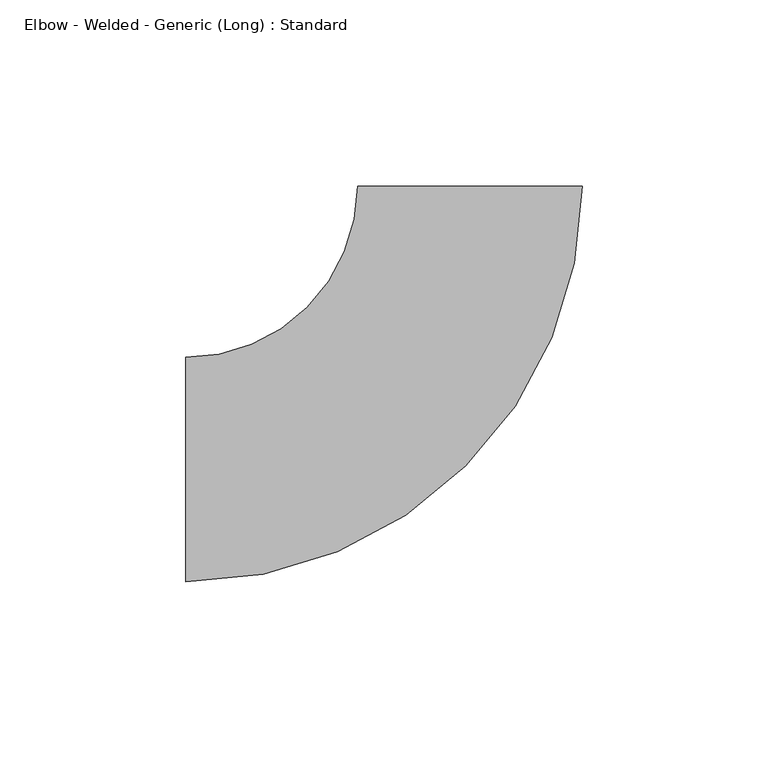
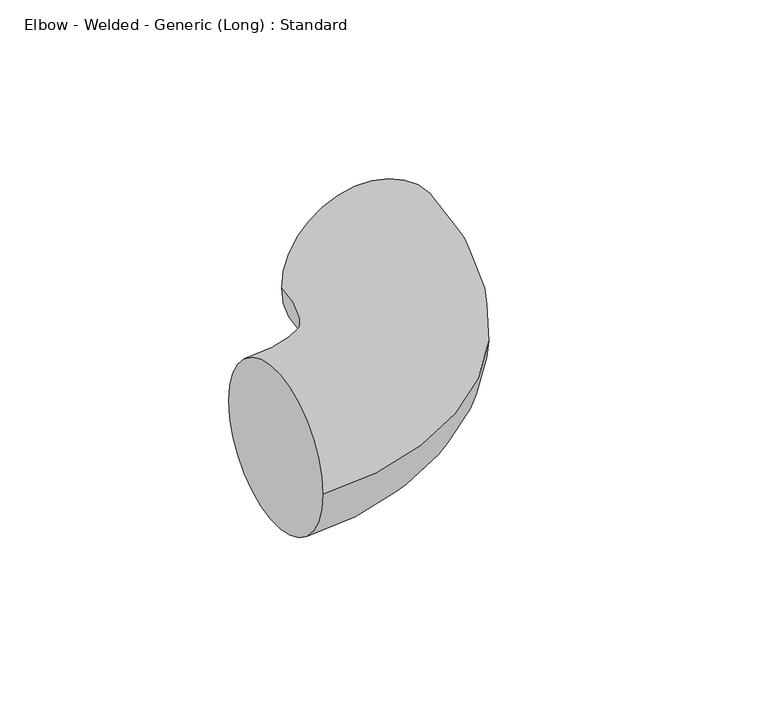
"""IFC4 building model written with IfcOpenShell, lengths in millimetres: pipe fitting geometry, Elbow - Welded - Generic (Long) : Standard."""

import ifcopenshell
import ifcopenshell.guid

model = None  # the IFC model being written
_history = None  # IfcOwnerHistory: only IFC2X3 demands one
_inside = {}  # id of a spatial element -> (the spatial element, [elements in it])
_under = {}  # id of a project, library or spatial element -> (it, [spatial elements below it])
_declared = {}  # id of a project -> (the project, [libraries it declares])
_typed = {}  # id of a type object -> (the type object, [elements of that type])
_made_of = {}  # id of a material, layer set ... -> (it, [elements and type objects made of it])


def new_model(schema):
    """Start an empty IFC model of exactly this schema.

    Asked for "IFC4X3", IfcOpenShell would pick the latest addendum, in which some entities
    have other attributes; the version numbers below select the first issue.
    IFC2X3 requires an IfcOwnerHistory on every rooted entity: one is made here for all.
    """
    global model, _history
    if schema == "IFC4X3":
        model = ifcopenshell.file(schema_version=(4, 3, 0, 0))
    else:
        model = ifcopenshell.file(schema=schema)
    _inside.clear()
    _under.clear()
    _declared.clear()
    _typed.clear()
    _made_of.clear()
    _history = None
    if model.schema == "IFC2X3":
        org = make("IfcOrganization", Name="unknown")
        user = make(
            "IfcPersonAndOrganization",
            ThePerson=make("IfcPerson", FamilyName="unknown"),
            TheOrganization=org,
        )
        app = make(
            "IfcApplication",
            ApplicationDeveloper=org,
            Version="unknown",
            ApplicationFullName="unknown",
            ApplicationIdentifier="unknown",
        )
        _history = make(
            "IfcOwnerHistory",
            OwningUser=user,
            OwningApplication=app,
            ChangeAction="ADDED",
            CreationDate=0,
        )
    return model


def make(cls, **values):
    """One entity of the class cls with the attributes given. An attribute that is None is left unset."""
    return model.create_entity(
        cls, **{name: value for name, value in values.items() if value is not None}
    )


def rooted(cls, **values):
    """An entity with a GlobalId (a new one), such as an element, a storey or a relation."""
    return make(cls, GlobalId=ifcopenshell.guid.new(), OwnerHistory=_history, **values)


def si_unit(unit_type, name, prefix=None):
    """IfcSIUnit, for example si_unit("LENGTHUNIT", "METRE", prefix="MILLI")."""
    return make("IfcSIUnit", UnitType=unit_type, Prefix=prefix, Name=name)


def assignment(units):
    """IfcUnitAssignment: the units of a project."""
    return None if units is None else make("IfcUnitAssignment", Units=units)


def point(xyz):
    """IfcCartesianPoint."""
    return None if xyz is None else make("IfcCartesianPoint", Coordinates=xyz)


def direction(xyz):
    """IfcDirection."""
    return None if xyz is None else make("IfcDirection", DirectionRatios=xyz)


def frame(location, z_axis=None, x_axis=None):
    """IfcAxis2Placement3D, a coordinate frame: its origin and axes. An axis left out is left unset."""
    return make(
        "IfcAxis2Placement3D",
        Location=point(location),
        Axis=direction(z_axis),
        RefDirection=direction(x_axis),
    )


def origin():
    """The frame at (0, 0, 0) with its axes left unset."""
    return frame((0.0, 0.0, 0.0))


def place(relative_to, where):
    """IfcLocalPlacement: puts the frame where relative to a parent placement (None: the world)."""
    return make(
        "IfcLocalPlacement", PlacementRelTo=relative_to, RelativePlacement=where
    )


def context(
    kind, dimensions, precision=None, world=None, true_north=None, identifier=None
):
    """IfcGeometricRepresentationContext, for example the 3D "Model" context."""
    return make(
        "IfcGeometricRepresentationContext",
        ContextIdentifier=identifier,
        ContextType=kind,
        CoordinateSpaceDimension=dimensions,
        Precision=precision,
        WorldCoordinateSystem=world,
        TrueNorth=true_north,
    )


def project(units=None, contexts=None):
    """IfcProject with its units and contexts."""
    return rooted(
        "IfcProject",
        Name="project",
        RepresentationContexts=contexts,
        UnitsInContext=assignment(units),
    )


def spatial(cls, under=None, at=None, **own):
    """A site, building, storey or space (cls), placed at a placement, below another one or the project."""
    s = rooted(cls, ObjectPlacement=at, **own)
    if under is not None:
        _under.setdefault(under.id(), (under, []))[1].append(s)
    return s


def circle_curve(where, radius):
    """IfcCircle in the frame where."""
    return make("IfcCircle", Position=where, Radius=radius)


def ellipse_curve(where, semi_axis1, semi_axis2):
    """IfcEllipse in the frame where."""
    return make(
        "IfcEllipse", Position=where, SemiAxis1=semi_axis1, SemiAxis2=semi_axis2
    )


def trimmed(basis, trim1, trim2, sense, master):
    """IfcTrimmedCurve: the piece of a basis curve between two trims."""
    return make(
        "IfcTrimmedCurve",
        BasisCurve=basis,
        Trim1=trim1,
        Trim2=trim2,
        SenseAgreement=sense,
        MasterRepresentation=master,
    )


def shape(context_of_items, identifier, shape_type, items):
    """IfcShapeRepresentation: the items that make up one representation, for example the "Body"."""
    return make(
        "IfcShapeRepresentation",
        ContextOfItems=context_of_items,
        RepresentationIdentifier=identifier,
        RepresentationType=shape_type,
        Items=items,
    )


def source(mapping_origin, context_of_items, identifier, shape_type, items):
    """IfcRepresentationMap: a shape defined once, which mapped items show again and again."""
    return make(
        "IfcRepresentationMap",
        MappingOrigin=mapping_origin,
        MappedRepresentation=shape(context_of_items, identifier, shape_type, items),
    )


def transform(
    local_origin,
    x_axis=None,
    y_axis=None,
    z_axis=None,
    scale=None,
    scale2=None,
    scale3=None,
    uniform=True,
):
    """IfcCartesianTransformationOperator3D, or its non-uniform kind. x_axis, y_axis, z_axis: its Axis1, 2, 3."""
    if uniform:
        return make(
            "IfcCartesianTransformationOperator3D",
            Axis1=direction(x_axis),
            Axis2=direction(y_axis),
            LocalOrigin=point(local_origin),
            Scale=scale,
            Axis3=direction(z_axis),
        )
    return make(
        "IfcCartesianTransformationOperator3DnonUniform",
        Axis1=direction(x_axis),
        Axis2=direction(y_axis),
        LocalOrigin=point(local_origin),
        Scale=scale,
        Axis3=direction(z_axis),
        Scale2=scale2,
        Scale3=scale3,
    )


def mapped(mapping_source, mapping_target):
    """IfcMappedItem: shows the shape of a source again, moved by a transform."""
    return make(
        "IfcMappedItem", MappingSource=mapping_source, MappingTarget=mapping_target
    )


def made_of(thing, what):
    """Note that an element or type object is made of a material, layer set ...; save() writes the relation."""
    if what is not None:
        _made_of.setdefault(what.id(), (what, []))[1].append(thing)
    return thing


def element(
    cls,
    number,
    at=None,
    inside=None,
    cuts=None,
    type_object=None,
    material=None,
    context=None,
    identifier="Body",
    shape_type=None,
    held_by="IfcProductDefinitionShape",
    body=None,
    shapes=None,
    **own,
):
    """One element of the class cls, such as IfcWall. Its Tag is "e" and its number.

    at: its placement. inside: the storey or other place that contains it. cuts: it is an
    opening in that element (IfcRelVoidsElement). A single representation is given by context,
    identifier, shape_type and body (its items); several are given by shapes. held_by: the class
    of the entity that holds the representations. save() writes the other relations.
    """
    e = rooted(cls, Tag="e%d" % number, ObjectPlacement=at, **own)
    if body is not None:
        shapes = [shape(context, identifier, shape_type, body)]
    if shapes is not None:
        e.Representation = make(held_by, Representations=shapes)
    if inside is not None:
        _inside.setdefault(inside.id(), (inside, []))[1].append(e)
    if cuts is not None:
        rooted(
            "IfcRelVoidsElement", RelatingBuildingElement=cuts, RelatedOpeningElement=e
        )
    if type_object is not None:
        _typed.setdefault(type_object.id(), (type_object, []))[1].append(e)
    return made_of(e, material)


def aggregate(whole, parts):
    """IfcRelAggregates: a whole, such as a stair, and the parts it consists of."""
    return rooted("IfcRelAggregates", RelatingObject=whole, RelatedObjects=parts)


def save(model, path):
    """Write the relations noted so far, then the file.

    IfcRelAggregates (storeys below a building ...), IfcRelContainedInSpatialStructure (elements
    in a storey), IfcRelDefinesByType, IfcRelAssociatesMaterial and IfcRelDeclares: one each for
    every whole, place, type object, material and project.
    """
    for whole, parts in _under.values():
        aggregate(whole, parts)
    for where, things in _inside.values():
        rooted(
            "IfcRelContainedInSpatialStructure",
            RelatedElements=things,
            RelatingStructure=where,
        )
    for kind, things in _typed.values():
        rooted("IfcRelDefinesByType", RelatedObjects=things, RelatingType=kind)
    for what, things in _made_of.values():
        rooted("IfcRelAssociatesMaterial", RelatedObjects=things, RelatingMaterial=what)
    for by, libraries in _declared.values():
        rooted("IfcRelDeclares", RelatingContext=by, RelatedDefinitions=libraries)
    model.write(path)


def plane_surface(at):
    """IfcPlane: the flat surface through the origin of the frame at, square to its z axis."""
    return make("IfcPlane", Position=at)


def revolved_surface(curve, axis_point, axis_direction):
    """IfcSurfaceOfRevolution: the curve turned about the line through axis_point along axis_direction."""
    return make(
        "IfcSurfaceOfRevolution",
        SweptCurve=make("IfcArbitraryOpenProfileDef", ProfileType="CURVE", Curve=curve),
        AxisPosition=make("IfcAxis1Placement", Location=point(axis_point), Axis=direction(axis_direction)),
    )


def advanced_brep(points, edges, surfaces, faces):
    """IfcAdvancedBrep: a solid bounded by faces that lie on surfaces and meet in shared edges.

    An edge is (start, end): straight between two places in points (the first is 0);
    or (start, end, curve); or (start, end, curve, False) where it runs against its curve.
    A face is (place in surfaces, loops), or (place, loops, False) where it looks against
    its surface's normal. A loop lists edges by number (the first is 1), with a minus sign
    where the edge is run from its end to its start. The first loop is the outer one.
    """
    corners = [point(p) for p in points]
    vertices = [make("IfcVertexPoint", VertexGeometry=c) for c in corners]
    made = []
    for start, end, *more in edges:
        made.append(
            make(
                "IfcEdgeCurve",
                EdgeStart=vertices[start],
                EdgeEnd=vertices[end],
                EdgeGeometry=more[0] if more else make("IfcPolyline", Points=[corners[start], corners[end]]),
                SameSense=more[1] if len(more) > 1 else True,
            )
        )
    hull = []
    for where, loops, *sense in faces:
        bounds = []
        for j, loop in enumerate(loops):
            ring = [make("IfcOrientedEdge", EdgeElement=made[abs(k) - 1], Orientation=k > 0) for k in loop]
            bounds.append(
                make(
                    "IfcFaceOuterBound" if j == 0 else "IfcFaceBound",
                    Bound=make("IfcEdgeLoop", EdgeList=ring),
                    Orientation=True,
                )
            )
        hull.append(make("IfcAdvancedFace", Bounds=bounds, FaceSurface=surfaces[where], SameSense=sense[0] if sense else True))
    return make("IfcAdvancedBrep", Outer=make("IfcClosedShell", CfsFaces=hull))


def elbow_welded_generic_long_standard_f96a3ab6(model_context):
    return source(origin(), model_context, "Body", "AdvancedBrep", [
        advanced_brep(
        [(-76.2, -30.1625, 0.0), (-76.2, 30.1625, 0.0), (30.2646771, 76.1594756, 0.0), (-30.0602686, 76.2403873, 0.0)],
        [
            (0, 1, circle_curve(frame((-76.2, 0.0, 0.0), z_axis=(-1.0, 0.0, 0.0), x_axis=(0.0, 1.0, 0.0)), 30.1625)),
            (1, 0, circle_curve(frame((-76.2, 0.0, 0.0), z_axis=(-1.0, 0.0, 0.0), x_axis=(0.0, 1.0, 0.0)), 30.1625)),
            (2, 3, circle_curve(frame((0.1022043, 76.1999315, 0.0), z_axis=(0.0013412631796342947, 0.9999991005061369, 0.0), x_axis=(-0.9999991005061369, 0.0013412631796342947, 0.0)), 30.1625)),
            (3, 2, circle_curve(frame((0.1022043, 76.1999315, 0.0), z_axis=(0.0013412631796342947, 0.9999991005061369, 0.0), x_axis=(-0.9999991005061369, 0.0013412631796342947, 0.0)), 30.1625)),
            (3, 1, circle_curve(frame((-76.2, 76.3022729, 0.0), z_axis=(0.0, 0.0, -1.0), x_axis=(0.0, -1.0, 0.0)), 46.1397729)),
            (0, 2, circle_curve(frame((-76.2, 76.3022729, 0.0), z_axis=(0.0, 0.0, 1.0), x_axis=(0.0, -1.0, 0.0)), 106.4647729)),
        ],
        [
            plane_surface(frame((-76.2, 0.0, 0.0), z_axis=(-1.0, 0.0, 0.0), x_axis=(0.0, 0.0, 1.0))),
            plane_surface(frame((0.1022043, 76.1999315, 0.0), z_axis=(0.0013412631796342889, 0.999999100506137, 0.0), x_axis=(0.0, 0.0, 1.0))),
            revolved_surface(trimmed(ellipse_curve(frame((-76.2, 0.0, 0.0), z_axis=(-1.0, 0.0, 0.0), x_axis=(0.0, 1.0, 0.0)), 30.1625, 30.1625), [point((-76.2, -30.1625, 0.0))], [point((-76.2, 30.1625, 0.0))], True, "CARTESIAN"), (-76.2, 76.3022729, 0.0), (0.0, 0.0, 1.0)),
            revolved_surface(trimmed(ellipse_curve(frame((-76.2, 0.0, 0.0), z_axis=(-1.0, 0.0, 0.0), x_axis=(0.0, 1.0, 0.0)), 30.1625, 30.1625), [point((-76.2, 30.1625, 0.0))], [point((-76.2, -30.1625, 0.0))], True, "CARTESIAN"), (-76.2, 76.3022729, 0.0), (0.0, 0.0, 1.0)),
        ],
        [
            (0, [[1, 2]]),
            (1, [[3, 4]]),
            (2, [[5, -1, 6, -4]]),
            (3, [[-6, -2, -5, -3]]),
        ],
    ),
    ])


if __name__ == "__main__":
    model = new_model("IFC4")
    model_context = context("Model", 3, world=origin())
    ifc_project = project(units=[si_unit("LENGTHUNIT", "METRE", prefix="MILLI")], contexts=[model_context])
    site = spatial("IfcSite", under=ifc_project)
    building = spatial("IfcBuilding", under=site)
    placement = place(None, origin())
    elbow_welded_generic_long_standard_shape = elbow_welded_generic_long_standard_f96a3ab6(model_context)
    element("IfcPipeFitting", 1, ObjectType="Elbow - Welded - Generic (Long) : Standard", at=placement, inside=building, context=model_context, shape_type="MappedRepresentation", body=[
        mapped(elbow_welded_generic_long_standard_shape, transform((0.0, 0.0, 0.0), x_axis=(1.0, 0.0, 0.0), y_axis=(0.0, 1.0, 0.0), z_axis=(0.0, 0.0, 1.0))),
    ])
    save(model, "model.ifc")
